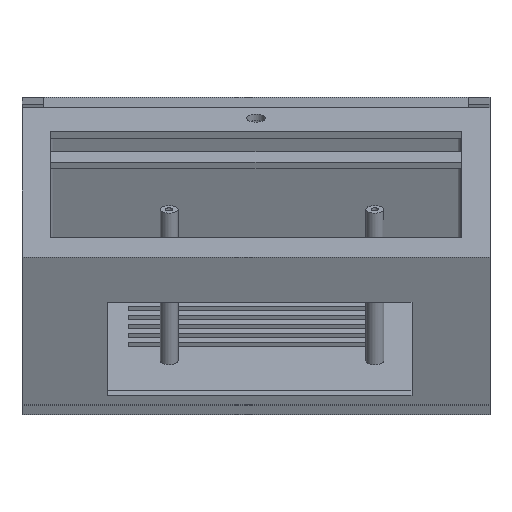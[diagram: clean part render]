
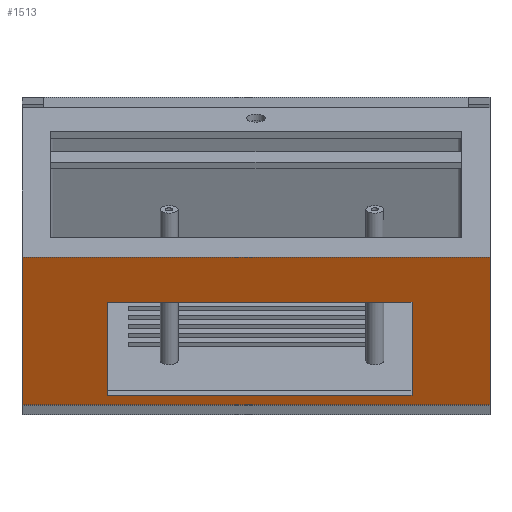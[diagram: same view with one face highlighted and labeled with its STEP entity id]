
A CAD part, top view. The second image highlights one B-rep face of the part: STEP entity #1513.
In plain terms, the highlighted planar face has unit normal (0, -0.423, 0.906).
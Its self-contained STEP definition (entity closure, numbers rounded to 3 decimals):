
#62 = PLANE('',#63);
#63 = AXIS2_PLACEMENT_3D('',#64,#65,#66);
#64 = CARTESIAN_POINT('',(0.,0.,27.44));
#65 = DIRECTION('',(1.,0.,0.));
#66 = DIRECTION('',(0.,-0.906,-0.423));
#250 = VERTEX_POINT('',#251);
#251 = CARTESIAN_POINT('',(0.,-42.262,118.071));
#265 = PLANE('',#266);
#266 = AXIS2_PLACEMENT_3D('',#267,#268,#269);
#267 = CARTESIAN_POINT('',(0.,0.,27.44));
#268 = DIRECTION('',(0.,-0.906,-0.423));
#269 = DIRECTION('',(1.,0.,0.));
#277 = EDGE_CURVE('',#250,#278,#280,.T.);
#278 = VERTEX_POINT('',#279);
#279 = CARTESIAN_POINT('',(0.,-83.861,98.673));
#280 = SURFACE_CURVE('',#281,(#285,#292),.PCURVE_S1.);
#281 = LINE('',#282,#283);
#282 = CARTESIAN_POINT('',(0.,-42.262,118.071));
#283 = VECTOR('',#284,1.);
#284 = DIRECTION('',(0.,-0.906,-0.423));
#285 = PCURVE('',#62,#286);
#286 = DEFINITIONAL_REPRESENTATION('',(#287),#291);
#287 = LINE('',#288,#289);
#288 = CARTESIAN_POINT('',(0.,-100.));
#289 = VECTOR('',#290,1.);
#290 = DIRECTION('',(1.,0.));
#291 = ( GEOMETRIC_REPRESENTATION_CONTEXT(2) 
PARAMETRIC_REPRESENTATION_CONTEXT() REPRESENTATION_CONTEXT('2D SPACE',''
  ) );
#292 = PCURVE('',#293,#298);
#293 = PLANE('',#294);
#294 = AXIS2_PLACEMENT_3D('',#295,#296,#297);
#295 = CARTESIAN_POINT('',(0.,-42.262,118.071));
#296 = DIRECTION('',(0.,-0.423,0.906));
#297 = DIRECTION('',(0.,-0.906,-0.423));
#298 = DEFINITIONAL_REPRESENTATION('',(#299),#303);
#299 = LINE('',#300,#301);
#300 = CARTESIAN_POINT('',(0.,0.));
#301 = VECTOR('',#302,1.);
#302 = DIRECTION('',(1.,0.));
#303 = ( GEOMETRIC_REPRESENTATION_CONTEXT(2) 
PARAMETRIC_REPRESENTATION_CONTEXT() REPRESENTATION_CONTEXT('2D SPACE',''
  ) );
#320 = PLANE('',#321);
#321 = AXIS2_PLACEMENT_3D('',#322,#323,#324);
#322 = CARTESIAN_POINT('',(-0.2,-41.515,7.861));
#323 = DIRECTION('',(0.,-0.906,-0.423));
#324 = DIRECTION('',(1.,0.,0.));
#636 = PLANE('',#637);
#637 = AXIS2_PLACEMENT_3D('',#638,#639,#640);
#638 = CARTESIAN_POINT('',(132.,-80.,0.));
#639 = DIRECTION('',(1.,0.,-0.));
#640 = DIRECTION('',(0.,0.,1.));
#1129 = VERTEX_POINT('',#1130);
#1130 = CARTESIAN_POINT('',(132.,-83.861,98.673));
#1149 = EDGE_CURVE('',#278,#1129,#1150,.T.);
#1150 = SURFACE_CURVE('',#1151,(#1155,#1161),.PCURVE_S1.);
#1151 = LINE('',#1152,#1153);
#1152 = CARTESIAN_POINT('',(-0.1,-83.861,98.673));
#1153 = VECTOR('',#1154,1.);
#1154 = DIRECTION('',(1.,0.,0.));
#1155 = PCURVE('',#320,#1156);
#1156 = DEFINITIONAL_REPRESENTATION('',(#1157),#1160);
#1157 = B_SPLINE_CURVE_WITH_KNOTS('',1,(#1158,#1159),.UNSPECIFIED.,.F.,
  .F.,(2,2),(0.1,132.1),.PIECEWISE_BEZIER_KNOTS.);
#1158 = CARTESIAN_POINT('',(0.2,100.2));
#1159 = CARTESIAN_POINT('',(132.2,100.2));
#1160 = ( GEOMETRIC_REPRESENTATION_CONTEXT(2) 
PARAMETRIC_REPRESENTATION_CONTEXT() REPRESENTATION_CONTEXT('2D SPACE',''
  ) );
#1161 = PCURVE('',#293,#1162);
#1162 = DEFINITIONAL_REPRESENTATION('',(#1163),#1166);
#1163 = B_SPLINE_CURVE_WITH_KNOTS('',1,(#1164,#1165),.UNSPECIFIED.,.F.,
  .F.,(2,2),(0.1,132.1),.PIECEWISE_BEZIER_KNOTS.);
#1164 = CARTESIAN_POINT('',(45.9,0.));
#1165 = CARTESIAN_POINT('',(45.9,132.));
#1166 = ( GEOMETRIC_REPRESENTATION_CONTEXT(2) 
PARAMETRIC_REPRESENTATION_CONTEXT() REPRESENTATION_CONTEXT('2D SPACE',''
  ) );
#1513 = ADVANCED_FACE('',(#1514,#1562),#293,.T.);
#1514 = FACE_BOUND('',#1515,.T.);
#1515 = EDGE_LOOP('',(#1516,#1539,#1560,#1561));
#1516 = ORIENTED_EDGE('',*,*,#1517,.F.);
#1517 = EDGE_CURVE('',#1518,#1129,#1520,.T.);
#1518 = VERTEX_POINT('',#1519);
#1519 = CARTESIAN_POINT('',(132.,-42.262,118.071));
#1520 = SURFACE_CURVE('',#1521,(#1525,#1532),.PCURVE_S1.);
#1521 = LINE('',#1522,#1523);
#1522 = CARTESIAN_POINT('',(132.,-42.262,118.071));
#1523 = VECTOR('',#1524,1.);
#1524 = DIRECTION('',(0.,-0.906,-0.423));
#1525 = PCURVE('',#293,#1526);
#1526 = DEFINITIONAL_REPRESENTATION('',(#1527),#1531);
#1527 = LINE('',#1528,#1529);
#1528 = CARTESIAN_POINT('',(0.,132.));
#1529 = VECTOR('',#1530,1.);
#1530 = DIRECTION('',(1.,0.));
#1531 = ( GEOMETRIC_REPRESENTATION_CONTEXT(2) 
PARAMETRIC_REPRESENTATION_CONTEXT() REPRESENTATION_CONTEXT('2D SPACE',''
  ) );
#1532 = PCURVE('',#636,#1533);
#1533 = DEFINITIONAL_REPRESENTATION('',(#1534),#1538);
#1534 = LINE('',#1535,#1536);
#1535 = CARTESIAN_POINT('',(118.071,-37.738));
#1536 = VECTOR('',#1537,1.);
#1537 = DIRECTION('',(-0.423,0.906));
#1538 = ( GEOMETRIC_REPRESENTATION_CONTEXT(2) 
PARAMETRIC_REPRESENTATION_CONTEXT() REPRESENTATION_CONTEXT('2D SPACE',''
  ) );
#1539 = ORIENTED_EDGE('',*,*,#1540,.F.);
#1540 = EDGE_CURVE('',#250,#1518,#1541,.T.);
#1541 = SURFACE_CURVE('',#1542,(#1546,#1553),.PCURVE_S1.);
#1542 = LINE('',#1543,#1544);
#1543 = CARTESIAN_POINT('',(0.,-42.262,118.071));
#1544 = VECTOR('',#1545,1.);
#1545 = DIRECTION('',(1.,0.,0.));
#1546 = PCURVE('',#293,#1547);
#1547 = DEFINITIONAL_REPRESENTATION('',(#1548),#1552);
#1548 = LINE('',#1549,#1550);
#1549 = CARTESIAN_POINT('',(0.,0.));
#1550 = VECTOR('',#1551,1.);
#1551 = DIRECTION('',(0.,1.));
#1552 = ( GEOMETRIC_REPRESENTATION_CONTEXT(2) 
PARAMETRIC_REPRESENTATION_CONTEXT() REPRESENTATION_CONTEXT('2D SPACE',''
  ) );
#1553 = PCURVE('',#265,#1554);
#1554 = DEFINITIONAL_REPRESENTATION('',(#1555),#1559);
#1555 = LINE('',#1556,#1557);
#1556 = CARTESIAN_POINT('',(0.,100.));
#1557 = VECTOR('',#1558,1.);
#1558 = DIRECTION('',(1.,0.));
#1559 = ( GEOMETRIC_REPRESENTATION_CONTEXT(2) 
PARAMETRIC_REPRESENTATION_CONTEXT() REPRESENTATION_CONTEXT('2D SPACE',''
  ) );
#1560 = ORIENTED_EDGE('',*,*,#277,.T.);
#1561 = ORIENTED_EDGE('',*,*,#1149,.T.);
#1562 = FACE_BOUND('',#1563,.T.);
#1563 = EDGE_LOOP('',(#1564,#1594,#1622,#1650));
#1564 = ORIENTED_EDGE('',*,*,#1565,.F.);
#1565 = EDGE_CURVE('',#1566,#1568,#1570,.T.);
#1566 = VERTEX_POINT('',#1567);
#1567 = CARTESIAN_POINT('',(24.,-81.233,99.899));
#1568 = VERTEX_POINT('',#1569);
#1569 = CARTESIAN_POINT('',(110.,-81.233,99.899));
#1570 = SURFACE_CURVE('',#1571,(#1575,#1582),.PCURVE_S1.);
#1571 = LINE('',#1572,#1573);
#1572 = CARTESIAN_POINT('',(12.,-81.233,99.899));
#1573 = VECTOR('',#1574,1.);
#1574 = DIRECTION('',(1.,0.,0.));
#1575 = PCURVE('',#293,#1576);
#1576 = DEFINITIONAL_REPRESENTATION('',(#1577),#1581);
#1577 = LINE('',#1578,#1579);
#1578 = CARTESIAN_POINT('',(43.,12.));
#1579 = VECTOR('',#1580,1.);
#1580 = DIRECTION('',(0.,1.));
#1581 = ( GEOMETRIC_REPRESENTATION_CONTEXT(2) 
PARAMETRIC_REPRESENTATION_CONTEXT() REPRESENTATION_CONTEXT('2D SPACE',''
  ) );
#1582 = PCURVE('',#1583,#1588);
#1583 = PLANE('',#1584);
#1584 = AXIS2_PLACEMENT_3D('',#1585,#1586,#1587);
#1585 = CARTESIAN_POINT('',(24.,-79.543,96.273));
#1586 = DIRECTION('',(0.,-0.906,-0.423));
#1587 = DIRECTION('',(1.,0.,0.));
#1588 = DEFINITIONAL_REPRESENTATION('',(#1589),#1593);
#1589 = LINE('',#1590,#1591);
#1590 = CARTESIAN_POINT('',(-12.,4.));
#1591 = VECTOR('',#1592,1.);
#1592 = DIRECTION('',(1.,0.));
#1593 = ( GEOMETRIC_REPRESENTATION_CONTEXT(2) 
PARAMETRIC_REPRESENTATION_CONTEXT() REPRESENTATION_CONTEXT('2D SPACE',''
  ) );
#1594 = ORIENTED_EDGE('',*,*,#1595,.T.);
#1595 = EDGE_CURVE('',#1566,#1596,#1598,.T.);
#1596 = VERTEX_POINT('',#1597);
#1597 = CARTESIAN_POINT('',(24.,-54.95,112.155));
#1598 = SURFACE_CURVE('',#1599,(#1603,#1610),.PCURVE_S1.);
#1599 = LINE('',#1600,#1601);
#1600 = CARTESIAN_POINT('',(24.,-48.606,115.113));
#1601 = VECTOR('',#1602,1.);
#1602 = DIRECTION('',(0.,0.906,0.423));
#1603 = PCURVE('',#293,#1604);
#1604 = DEFINITIONAL_REPRESENTATION('',(#1605),#1609);
#1605 = LINE('',#1606,#1607);
#1606 = CARTESIAN_POINT('',(7.,24.));
#1607 = VECTOR('',#1608,1.);
#1608 = DIRECTION('',(-1.,0.));
#1609 = ( GEOMETRIC_REPRESENTATION_CONTEXT(2) 
PARAMETRIC_REPRESENTATION_CONTEXT() REPRESENTATION_CONTEXT('2D SPACE',''
  ) );
#1610 = PCURVE('',#1611,#1616);
#1611 = PLANE('',#1612);
#1612 = AXIS2_PLACEMENT_3D('',#1613,#1614,#1615);
#1613 = CARTESIAN_POINT('',(24.,-53.26,108.529));
#1614 = DIRECTION('',(1.,0.,0.));
#1615 = DIRECTION('',(0.,-0.906,-0.423));
#1616 = DEFINITIONAL_REPRESENTATION('',(#1617),#1621);
#1617 = LINE('',#1618,#1619);
#1618 = CARTESIAN_POINT('',(-7.,-4.));
#1619 = VECTOR('',#1620,1.);
#1620 = DIRECTION('',(-1.,0.));
#1621 = ( GEOMETRIC_REPRESENTATION_CONTEXT(2) 
PARAMETRIC_REPRESENTATION_CONTEXT() REPRESENTATION_CONTEXT('2D SPACE',''
  ) );
#1622 = ORIENTED_EDGE('',*,*,#1623,.T.);
#1623 = EDGE_CURVE('',#1596,#1624,#1626,.T.);
#1624 = VERTEX_POINT('',#1625);
#1625 = CARTESIAN_POINT('',(110.,-54.95,112.155));
#1626 = SURFACE_CURVE('',#1627,(#1631,#1638),.PCURVE_S1.);
#1627 = LINE('',#1628,#1629);
#1628 = CARTESIAN_POINT('',(12.,-54.95,112.155));
#1629 = VECTOR('',#1630,1.);
#1630 = DIRECTION('',(1.,0.,0.));
#1631 = PCURVE('',#293,#1632);
#1632 = DEFINITIONAL_REPRESENTATION('',(#1633),#1637);
#1633 = LINE('',#1634,#1635);
#1634 = CARTESIAN_POINT('',(14.,12.));
#1635 = VECTOR('',#1636,1.);
#1636 = DIRECTION('',(0.,1.));
#1637 = ( GEOMETRIC_REPRESENTATION_CONTEXT(2) 
PARAMETRIC_REPRESENTATION_CONTEXT() REPRESENTATION_CONTEXT('2D SPACE',''
  ) );
#1638 = PCURVE('',#1639,#1644);
#1639 = PLANE('',#1640);
#1640 = AXIS2_PLACEMENT_3D('',#1641,#1642,#1643);
#1641 = CARTESIAN_POINT('',(24.,-53.26,108.529));
#1642 = DIRECTION('',(0.,-0.906,-0.423));
#1643 = DIRECTION('',(1.,0.,0.));
#1644 = DEFINITIONAL_REPRESENTATION('',(#1645),#1649);
#1645 = LINE('',#1646,#1647);
#1646 = CARTESIAN_POINT('',(-12.,4.));
#1647 = VECTOR('',#1648,1.);
#1648 = DIRECTION('',(1.,0.));
#1649 = ( GEOMETRIC_REPRESENTATION_CONTEXT(2) 
PARAMETRIC_REPRESENTATION_CONTEXT() REPRESENTATION_CONTEXT('2D SPACE',''
  ) );
#1650 = ORIENTED_EDGE('',*,*,#1651,.F.);
#1651 = EDGE_CURVE('',#1568,#1624,#1652,.T.);
#1652 = SURFACE_CURVE('',#1653,(#1657,#1664),.PCURVE_S1.);
#1653 = LINE('',#1654,#1655);
#1654 = CARTESIAN_POINT('',(110.,-48.606,115.113));
#1655 = VECTOR('',#1656,1.);
#1656 = DIRECTION('',(0.,0.906,0.423));
#1657 = PCURVE('',#293,#1658);
#1658 = DEFINITIONAL_REPRESENTATION('',(#1659),#1663);
#1659 = LINE('',#1660,#1661);
#1660 = CARTESIAN_POINT('',(7.,110.));
#1661 = VECTOR('',#1662,1.);
#1662 = DIRECTION('',(-1.,0.));
#1663 = ( GEOMETRIC_REPRESENTATION_CONTEXT(2) 
PARAMETRIC_REPRESENTATION_CONTEXT() REPRESENTATION_CONTEXT('2D SPACE',''
  ) );
#1664 = PCURVE('',#1665,#1670);
#1665 = PLANE('',#1666);
#1666 = AXIS2_PLACEMENT_3D('',#1667,#1668,#1669);
#1667 = CARTESIAN_POINT('',(110.,-53.26,108.529));
#1668 = DIRECTION('',(1.,0.,0.));
#1669 = DIRECTION('',(0.,-0.906,-0.423));
#1670 = DEFINITIONAL_REPRESENTATION('',(#1671),#1675);
#1671 = LINE('',#1672,#1673);
#1672 = CARTESIAN_POINT('',(-7.,-4.));
#1673 = VECTOR('',#1674,1.);
#1674 = DIRECTION('',(-1.,0.));
#1675 = ( GEOMETRIC_REPRESENTATION_CONTEXT(2) 
PARAMETRIC_REPRESENTATION_CONTEXT() REPRESENTATION_CONTEXT('2D SPACE',''
  ) );
